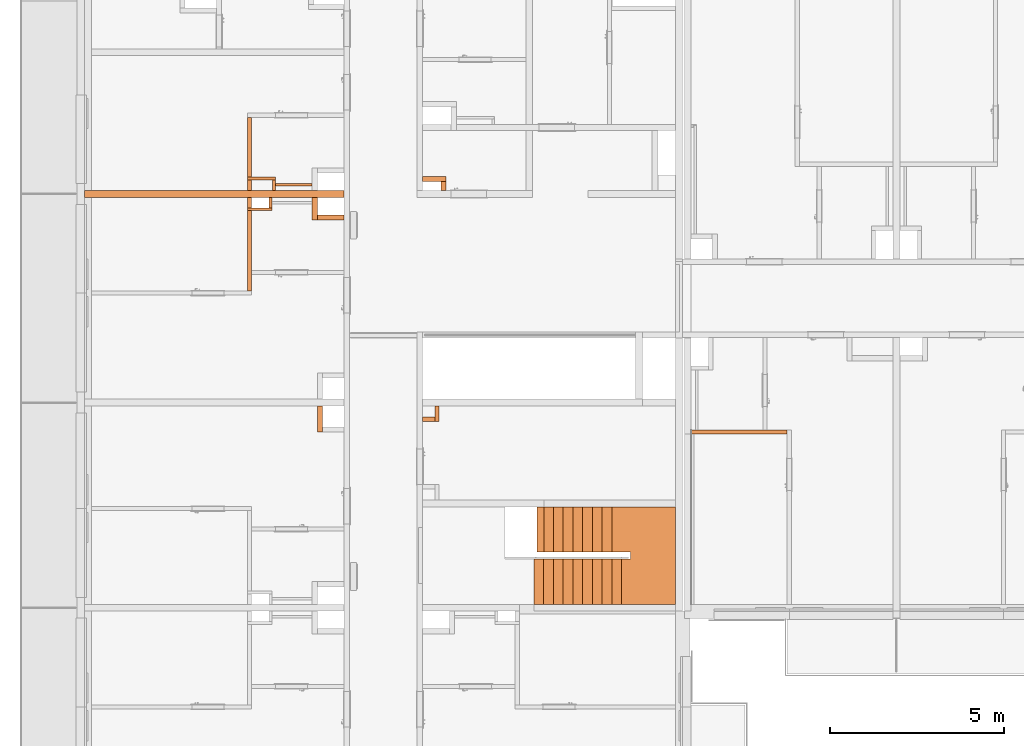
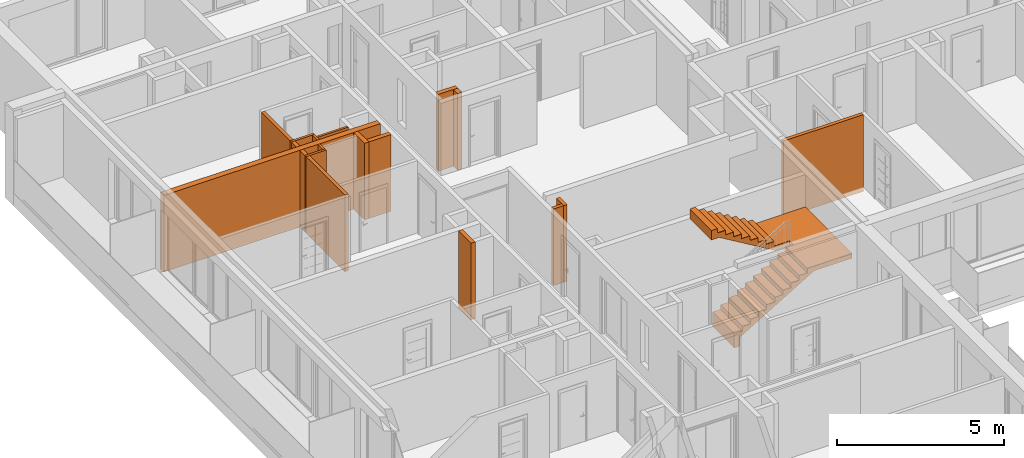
# One storey, part 55 of 67: 17 proxies.
"""IFC2X3 building model written with IfcOpenShell, lengths in millimetres."""

from ifc_helpers import new_model, entity, si_unit, converted_unit, derived_unit, money_unit, direction, frame, origin_with_axes, place, context, subcontext, project, spatial, faceted_brep, material, material_list, type_object, element, save


model = new_model("IFC2X3")

# Units and contexts
model_context = context("Model", 3, precision=0.01, world=origin_with_axes(), true_north=direction((0.34421633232, 0.938890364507)))
body_context = subcontext(model_context, "Body", "Model", "MODEL_VIEW")
ifc_project = project(units=[si_unit("LENGTHUNIT", "METRE", prefix="MILLI"), si_unit("AREAUNIT", "SQUARE_METRE"), si_unit("VOLUMEUNIT", "CUBIC_METRE"), converted_unit("PLANEANGLEUNIT", "DEGREE", entity("IfcPlaneAngleMeasure", 0.0174532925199), si_unit("PLANEANGLEUNIT", "RADIAN"), dimensions=[0, 0, 0, 0, 0, 0, 0]), si_unit("SOLIDANGLEUNIT", "STERADIAN"), money_unit("USD"), converted_unit("TIMEUNIT", "Year", entity("IfcTimeMeasure", 31556926.0), si_unit("TIMEUNIT", "SECOND"), dimensions=[0, 0, 1, 0, 0, 0, 0]), si_unit("MASSUNIT", "GRAM", prefix="KILO"), si_unit("THERMODYNAMICTEMPERATUREUNIT", "DEGREE_CELSIUS"), si_unit("LUMINOUSINTENSITYUNIT", "LUMEN"), si_unit("ENERGYUNIT", "JOULE", prefix="MEGA"), derived_unit("THERMALCONDUCTANCEUNIT", [(si_unit("POWERUNIT", "WATT"), 1), (si_unit("LENGTHUNIT", "METRE"), -1), (si_unit("THERMODYNAMICTEMPERATUREUNIT", "KELVIN"), -1)]), derived_unit("SPECIFICHEATCAPACITYUNIT", [(si_unit("ENERGYUNIT", "JOULE"), 1), (si_unit("MASSUNIT", "GRAM", prefix="KILO"), -1), (si_unit("THERMODYNAMICTEMPERATUREUNIT", "KELVIN"), -1)]), derived_unit("MASSDENSITYUNIT", [(si_unit("MASSUNIT", "GRAM", prefix="KILO"), 1), (si_unit("VOLUMEUNIT", "CUBIC_METRE"), -1)])], contexts=[model_context])

# Site, building, storey
site_placement = place(None, origin_with_axes())
site = spatial("IfcSite", under=ifc_project, at=site_placement, Name="USTRONIE MORSKIE", CompositionType="ELEMENT")
building_placement = place(site_placement, origin_with_axes())
building = spatial("IfcBuilding", under=site, at=building_placement, Name="Budynek", CompositionType="ELEMENT")
storey_placement = place(building_placement, frame((0.0, 0.0, 4000.0), z_axis=(0.0, 0.0, 1.0), x_axis=(1.0, 0.0, 0.0)))
storey = spatial("IfcBuildingStorey", under=building, at=storey_placement, Name="PIĘTRO 1", CompositionType="ELEMENT", Elevation=4000.0)

# Proxies
ifc_material_1 = material(Name="Bloczki silikatowe")
building_element_proxy_type_1 = type_object("IfcBuildingElementProxyType", Name="Bloczki silikatowe 120", PredefinedType="NOTDEFINED")
proxy_1_placement = place(storey_placement, frame((354717.920919, 738801.199036, -160.0), z_axis=(0.0, 0.0, 1.0), x_axis=(0.0, -1.0, 0.0)))
element("IfcBuildingElementProxy", 1, at=proxy_1_placement, inside=storey, type_object=building_element_proxy_type_1, material=ifc_material_1, Name="SW-04", context=body_context, shape_type="Brep", body=[
    faceted_brep([(400.01915523, 60.0, 0.0), (100.000390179, 60.0, 0.0), (100.000390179, 60.0, 2800.0), (400.01915523, 60.0, 2800.0), (400.01915523, -60.0, 0.0), (100.000390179, -60.0, 0.0), (100.000390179, -60.0, 2800.0), (400.01915523, -60.0, 2800.0)], [[[0, 1, 2, 3]], [[4, 5, 1, 0]], [[5, 6, 2, 1]], [[3, 2, 6, 7]], [[4, 0, 3, 7]], [[7, 6, 5, 4]]]),
    faceted_brep([(480.01915523, 60.0, 2800.0), (480.01915523, -60.0, 2800.0), (2790.01935038, -60.0, 2800.0), (2790.01935038, 60.0, 2800.0), (480.01915523, 60.0, 0.0), (480.01915523, -60.0, 0.0), (2790.01935038, -60.0, 0.0), (2790.01935038, 60.0, 0.0)], [[[0, 1, 2, 3]], [[1, 0, 4, 5]], [[1, 5, 6, 2]], [[7, 3, 2, 6]], [[4, 0, 3, 7]], [[5, 4, 7, 6]]]),
])
proxy_2_placement = place(storey_placement, frame((367317.920919, 731951.199132, -160.0), z_axis=(0.0, 0.0, 1.0), x_axis=(1.0, 0.0, 0.0)))
element("IfcBuildingElementProxy", 2, at=proxy_2_placement, inside=storey, type_object=building_element_proxy_type_1, material=ifc_material_1, Name="SW-04", context=body_context, shape_type="Brep", body=[
    faceted_brep([(2860.01935038, -59.9999999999, 2800.0), (2860.01935038, 59.9999999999, 2800.0), (99.9999999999, 59.9999999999, 2800.0), (99.9999999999, -59.9999999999, 2800.0), (2860.01935038, -59.9999999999, 0.0), (2860.01935038, 59.9999999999, 0.0), (99.9999999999, 59.9999999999, 0.0), (99.9999999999, -59.9999999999, 0.0)], [[[0, 1, 2, 3]], [[1, 0, 4, 5]], [[1, 5, 6, 2]], [[7, 3, 2, 6]], [[4, 0, 3, 7]], [[5, 4, 7, 6]]]),
])
proxy_3_placement = place(storey_placement, frame((354717.920919, 738801.198625, -180.0), z_axis=(0.0, 0.0, 1.0), x_axis=(0.0, 1.0, 0.0)))
element("IfcBuildingElementProxy", 3, at=proxy_3_placement, inside=storey, type_object=building_element_proxy_type_1, material=ifc_material_1, Name="SW-04", context=body_context, shape_type="Brep", body=[
    faceted_brep([(100.000020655, -60.0, 2820.0), (100.000020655, -60.0, 20.0), (400.019566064, -60.0, 20.0), (400.019566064, -60.0, 2820.0), (100.000020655, 60.0, 2820.0), (100.000020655, 60.0, 20.0), (400.019566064, 60.0, 20.0), (400.019566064, 60.0, 2820.0)], [[[0, 1, 2, 3]], [[4, 5, 1, 0]], [[6, 2, 1, 5]], [[2, 6, 7, 3]], [[4, 0, 3, 7]], [[7, 6, 5, 4]]]),
    faceted_brep([(480.019566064, -60.0, 2820.0), (480.019566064, -60.0, 20.0), (2200.01958047, -60.0, 20.0), (2200.01958047, -60.0, 2820.0), (480.019566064, 60.0, 2820.0), (480.019566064, 60.0, 20.0), (2200.01958047, 60.0, 20.0), (2200.01958047, 60.0, 2820.0)], [[[0, 1, 2, 3]], [[4, 5, 1, 0]], [[5, 6, 2, 1]], [[3, 2, 6, 7]], [[4, 0, 3, 7]], [[7, 6, 5, 4]]]),
])
proxy_4_placement = place(storey_placement, frame((360047.920919, 732381.198997, -160.0), z_axis=(0.0, 0.0, 1.0), x_axis=(-1.0, 0.0, 0.0)))
element("IfcBuildingElementProxy", 4, at=proxy_4_placement, inside=storey, type_object=building_element_proxy_type_1, material=ifc_material_1, Name="SW-04", context=body_context, shape_type="Brep", body=[
    faceted_brep([(350.0, 120.0, 0.0), (350.0, 0.0, 0.0), (0.0, 0.0, 0.0), (0.0, 120.0, 0.0), (350.0, 120.0, 2800.0), (350.0, 0.0, 2800.0), (0.0, 0.0, 2800.0), (0.0, 120.0, 2800.0)], [[[0, 1, 2, 3]], [[1, 0, 4, 5]], [[1, 5, 6, 2]], [[7, 3, 2, 6]], [[4, 0, 3, 7]], [[5, 4, 7, 6]]]),
])
proxy_5_placement = place(storey_placement, frame((360047.920919, 732801.199169, -160.0), z_axis=(0.0, 0.0, 1.0), x_axis=(0.0, -1.0, 0.0)))
element("IfcBuildingElementProxy", 5, at=proxy_5_placement, inside=storey, type_object=building_element_proxy_type_1, material=ifc_material_1, Name="SW-04", context=body_context, shape_type="Brep", body=[
    faceted_brep([(540.000171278, 120.0, 0.0), (540.000171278, 0.0, 0.0), (100.000132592, 0.0, 0.0), (100.000132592, 120.0, 0.0), (540.000171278, 120.0, 2800.0), (540.000171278, 0.0, 2800.0), (100.000132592, 0.0, 2800.0), (100.000132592, 120.0, 2800.0)], [[[0, 1, 2, 3]], [[1, 0, 4, 5]], [[1, 5, 6, 2]], [[7, 3, 2, 6]], [[4, 0, 3, 7]], [[5, 4, 7, 6]]]),
])
ifc_material_2 = material(Name="Beton konstrukcyjny B25")
ifc_material_3 = material(Name="Płytki podłogowe")
ifc_material_list_1 = material_list([ifc_material_2, ifc_material_2, ifc_material_2, ifc_material_3, ifc_material_3, ifc_material_3, ifc_material_3, ifc_material_3, ifc_material_3, ifc_material_3, ifc_material_3, ifc_material_3, ifc_material_3, ifc_material_3, ifc_material_3, ifc_material_3, ifc_material_3, ifc_material_3, ifc_material_3, ifc_material_3])
building_element_proxy_type_2 = type_object("IfcBuildingElementProxyType", Name="Typ schodów", PredefinedType="NOTDEFINED")
proxy_6_placement = place(storey_placement, frame((362896.181789, 727001.19902, 0.0), z_axis=(0.0, 0.0, 1.0), x_axis=(1.0, 0.0, 0.0)))
element("IfcBuildingElementProxy", 6, at=proxy_6_placement, inside=storey, type_object=building_element_proxy_type_2, material=ifc_material_list_1, Name="SCH2", context=body_context, shape_type="Brep", body=[
    faceted_brep([(2520.0, 1300.0, 1485.0), (2240.0, 1300.0, 1485.0), (2240.0, 0.0, 1485.0), (2520.0, 0.0, 1485.0), (2520.0, 1300.0, 1491.66666667), (2765.81150867, 1300.0, 1491.66666667), (2520.0, 1300.0, 1345.35029246), (2426.66666667, 1300.0, 1289.7947369), (2333.33333333, 1300.0, 1234.23918135), (2240.0, 1300.0, 1178.68362579), (2146.66666667, 1300.0, 1123.12807024), (2053.33333333, 1300.0, 1067.57251468), (1960.0, 1300.0, 1012.01695913), (1866.66666667, 1300.0, 956.46140357), (1773.33333333, 1300.0, 900.905848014), (1680.0, 1300.0, 845.350292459), (1586.66666667, 1300.0, 789.794736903), (1493.33333333, 1300.0, 734.239181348), (1400.0, 1300.0, 678.683625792), (1306.66666667, 1300.0, 623.128070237), (1213.33333333, 1300.0, 567.572514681), (1120.0, 1300.0, 512.016959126), (1026.66666667, 1300.0, 456.46140357), (933.333333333, 1300.0, 400.905848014), (840.0, 1300.0, 345.350292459), (746.666666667, 1300.0, 289.794736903), (653.333333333, 1300.0, 234.239181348), (560.0, 1300.0, 178.683625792), (466.666666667, 1300.0, 123.128070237), (373.333333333, 1300.0, 67.5725146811), (280.0, 1300.0, 12.0169591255), (200.0, 1300.0, -35.6020884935), (200.0, 1300.0, -360.0), (0.0, 1300.0, -360.0), (0.0, 1300.0, -154.649707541), (0.0, 1300.0, 151.666666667), (280.0, 1300.0, 151.666666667), (280.0, 1300.0, 318.333333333), (560.0, 1300.0, 318.333333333), (560.0, 1300.0, 485.0), (840.0, 1300.0, 485.0), (840.0, 1300.0, 651.666666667), (1120.0, 1300.0, 651.666666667), (1120.0, 1300.0, 818.333333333), (1400.0, 1300.0, 818.333333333), (1400.0, 1300.0, 985.0), (1680.0, 1300.0, 985.0), (1680.0, 1300.0, 1151.66666667), (1960.0, 1300.0, 1151.66666667), (1960.0, 1300.0, 1318.33333333), (2240.0, 1300.0, 1318.33333333), (2240.0, 0.0, 1318.33333333), (2520.0, 0.0, 1345.35029246), (2765.81150867, 0.0, 1491.66666667), (2520.0, 0.0, 1491.66666667), (1960.0, 0.0, 1318.33333333), (1960.0, 0.0, 1151.66666667), (1680.0, 0.0, 1151.66666667), (1680.0, 0.0, 985.0), (1400.0, 0.0, 985.0), (1400.0, 0.0, 818.333333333), (1120.0, 0.0, 818.333333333), (1120.0, 0.0, 651.666666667), (840.0, 0.0, 651.666666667), (840.0, 0.0, 485.0), (560.0, 0.0, 485.0), (560.0, 0.0, 318.333333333), (280.0, 0.0, 318.333333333), (280.0, 0.0, 151.666666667), (0.0, 0.0, 151.666666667), (0.0, 0.0, -154.649707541), (0.0, 0.0, -360.0), (200.0, 0.0, -360.0), (200.0, 0.0, -35.6020884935), (280.0, 0.0, 12.0169591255), (373.333333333, 0.0, 67.5725146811), (466.666666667, 0.0, 123.128070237), (560.0, 0.0, 178.683625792), (653.333333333, 0.0, 234.239181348), (746.666666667, 0.0, 289.794736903), (840.0, 0.0, 345.350292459), (933.333333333, 0.0, 400.905848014), (1026.66666667, 0.0, 456.46140357), (1120.0, 0.0, 512.016959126), (1213.33333333, 0.0, 567.572514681), (1306.66666667, 0.0, 623.128070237), (1400.0, 0.0, 678.683625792), (1493.33333333, 0.0, 734.239181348), (1586.66666667, 0.0, 789.794736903), (1680.0, 0.0, 845.350292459), (1773.33333333, 0.0, 900.905848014), (1866.66666667, 0.0, 956.46140357), (1960.0, 0.0, 1012.01695913), (2053.33333333, 0.0, 1067.57251468), (2146.66666667, 0.0, 1123.12807024), (2240.0, 0.0, 1178.68362579), (2333.33333333, 0.0, 1234.23918135), (2426.66666667, 0.0, 1289.7947369)], [[[0, 1, 2, 3]], [[0, 4, 5, 6, 7, 8, 9, 10, 11, 12, 13, 14, 15, 16, 17, 18, 19, 20, 21, 22, 23, 24, 25, 26, 27, 28, 29, 30, 31, 32, 33, 34, 35, 36, 37, 38, 39, 40, 41, 42, 43, 44, 45, 46, 47, 48, 49, 50, 1]], [[50, 51, 2, 1]], [[52, 53, 54, 3, 2, 51, 55, 56, 57, 58, 59, 60, 61, 62, 63, 64, 65, 66, 67, 68, 69, 70, 71, 72, 73, 74, 75, 76, 77, 78, 79, 80, 81, 82, 83, 84, 85, 86, 87, 88, 89, 90, 91, 92, 93, 94, 95, 96, 97]], [[3, 54, 4, 0]], [[54, 53, 5, 4]], [[6, 5, 53, 52, 97, 7]], [[7, 97, 96, 8]], [[8, 96, 95, 9]], [[9, 95, 94, 10]], [[10, 94, 93, 11]], [[11, 93, 92, 12]], [[12, 92, 91, 13]], [[13, 91, 90, 14]], [[14, 90, 89, 15]], [[15, 89, 88, 16]], [[16, 88, 87, 17]], [[17, 87, 86, 18]], [[18, 86, 85, 19]], [[19, 85, 84, 20]], [[20, 84, 83, 21]], [[21, 83, 82, 22]], [[22, 82, 81, 23]], [[23, 81, 80, 24]], [[24, 80, 79, 25]], [[25, 79, 78, 26]], [[26, 78, 77, 27]], [[27, 77, 76, 28]], [[28, 76, 75, 29]], [[29, 75, 74, 30]], [[30, 74, 73, 31]], [[72, 32, 31, 73]], [[72, 71, 33, 32]], [[33, 71, 70, 34]], [[69, 35, 34, 70]], [[68, 36, 35, 69]], [[36, 68, 67, 37]], [[66, 38, 37, 67]], [[38, 66, 65, 39]], [[64, 40, 39, 65]], [[40, 64, 63, 41]], [[62, 42, 41, 63]], [[42, 62, 61, 43]], [[60, 44, 43, 61]], [[44, 60, 59, 45]], [[58, 46, 45, 59]], [[46, 58, 57, 47]], [[56, 48, 47, 57]], [[48, 56, 55, 49]], [[51, 50, 49, 55]]]),
    faceted_brep([(2275.92762177, 1500.0, 1491.66666667), (2771.73913043, 1500.0, 1491.66666667), (2771.73913043, 1500.0, 1651.66666667), (2275.92762177, 1500.0, 1651.66666667), (2275.92762177, 2800.0, 1491.66666667), (4071.73913043, 2800.0, 1491.66666667), (4071.73913043, 0.0, 1491.66666667), (2520.0, 0.0, 1491.66666667), (2520.0, 1300.0, 1491.66666667), (2771.73913043, 1300.0, 1491.66666667), (2771.73913043, 1300.0, 1651.66666667), (2520.0, 1300.0, 1651.66666667), (2520.0, 0.0, 1651.66666667), (4071.73913043, 0.0, 1651.66666667), (4071.73913043, 2800.0, 1651.66666667), (2275.92762177, 2800.0, 1651.66666667)], [[[0, 1, 2, 3]], [[4, 5, 6, 7, 8, 9, 1, 0]], [[10, 2, 1, 9]], [[3, 2, 10, 11, 12, 13, 14, 15]], [[15, 4, 0, 3]], [[15, 14, 5, 4]], [[14, 13, 6, 5]], [[13, 12, 7, 6]], [[12, 11, 8, 7]], [[11, 10, 9, 8]]]),
    faceted_brep([(375.072463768, 2800.0, 2623.12807024), (375.072463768, 1500.0, 2623.12807024), (346.727621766, 1500.0, 2640.0), (346.727621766, 2800.0, 2640.0), (468.405797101, 1500.0, 2567.57251468), (468.405797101, 2800.0, 2567.57251468), (561.739130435, 1500.0, 2512.01695913), (655.072463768, 1500.0, 2456.46140357), (748.405797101, 1500.0, 2400.90584801), (841.739130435, 1500.0, 2345.35029246), (935.072463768, 1500.0, 2289.7947369), (1028.4057971, 1500.0, 2234.23918135), (1121.73913043, 1500.0, 2178.68362579), (1215.07246377, 1500.0, 2123.12807024), (1308.4057971, 1500.0, 2067.57251468), (1401.73913043, 1500.0, 2012.01695913), (1495.07246377, 1500.0, 1956.46140357), (1588.4057971, 1500.0, 1900.90584801), (1681.73913043, 1500.0, 1845.35029246), (1775.07246377, 1500.0, 1789.7947369), (1868.4057971, 1500.0, 1734.23918135), (1961.73913043, 1500.0, 1678.68362579), (2055.07246377, 1500.0, 1623.12807024), (2148.4057971, 1500.0, 1567.57251468), (2241.73913043, 1500.0, 1512.01695913), (2275.92762177, 1500.0, 1491.66666667), (2275.92762177, 1500.0, 1651.66666667), (2241.73913043, 1500.0, 1651.66666667), (2241.73913043, 1500.0, 1818.33333333), (1961.73913043, 1500.0, 1818.33333333), (1961.73913043, 1500.0, 1985.0), (1681.73913043, 1500.0, 1985.0), (1681.73913043, 1500.0, 2151.66666667), (1401.73913043, 1500.0, 2151.66666667), (1401.73913043, 1500.0, 2318.33333333), (1121.73913043, 1500.0, 2318.33333333), (1121.73913043, 1500.0, 2485.0), (841.739130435, 1500.0, 2485.0), (841.739130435, 1500.0, 2651.66666667), (561.739130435, 1500.0, 2651.66666667), (561.739130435, 1500.0, 2818.33333333), (281.739130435, 1500.0, 2818.33333333), (281.739130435, 1500.0, 2985.0), (81.7391304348, 1500.0, 2985.0), (81.7391304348, 1500.0, 2640.0), (81.7391304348, 2800.0, 2640.0), (81.7391304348, 2800.0, 2985.0), (281.739130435, 2800.0, 2985.0), (281.739130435, 2800.0, 2818.33333333), (561.739130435, 2800.0, 2818.33333333), (561.739130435, 2800.0, 2651.66666667), (841.739130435, 2800.0, 2651.66666667), (841.739130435, 2800.0, 2485.0), (1121.73913043, 2800.0, 2485.0), (1121.73913043, 2800.0, 2318.33333333), (1401.73913043, 2800.0, 2318.33333333), (1401.73913043, 2800.0, 2151.66666667), (1681.73913043, 2800.0, 2151.66666667), (1681.73913043, 2800.0, 1985.0), (1961.73913043, 2800.0, 1985.0), (1961.73913043, 2800.0, 1818.33333333), (2241.73913043, 2800.0, 1818.33333333), (2241.73913043, 2800.0, 1651.66666667), (2275.92762177, 2800.0, 1651.66666667), (2275.92762177, 2800.0, 1491.66666667), (2241.73913043, 2800.0, 1512.01695913), (2148.4057971, 2800.0, 1567.57251468), (2055.07246377, 2800.0, 1623.12807024), (1961.73913043, 2800.0, 1678.68362579), (1868.4057971, 2800.0, 1734.23918135), (1775.07246377, 2800.0, 1789.7947369), (1681.73913043, 2800.0, 1845.35029246), (1588.4057971, 2800.0, 1900.90584801), (1495.07246377, 2800.0, 1956.46140357), (1401.73913043, 2800.0, 2012.01695913), (1308.4057971, 2800.0, 2067.57251468), (1215.07246377, 2800.0, 2123.12807024), (1121.73913043, 2800.0, 2178.68362579), (1028.4057971, 2800.0, 2234.23918135), (935.072463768, 2800.0, 2289.7947369), (841.739130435, 2800.0, 2345.35029246), (748.405797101, 2800.0, 2400.90584801), (655.072463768, 2800.0, 2456.46140357), (561.739130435, 2800.0, 2512.01695913)], [[[0, 1, 2, 3]], [[4, 1, 0, 5]], [[1, 4, 6, 7, 8, 9, 10, 11, 12, 13, 14, 15, 16, 17, 18, 19, 20, 21, 22, 23, 24, 25, 26, 27, 28, 29, 30, 31, 32, 33, 34, 35, 36, 37, 38, 39, 40, 41, 42, 43, 44, 2]], [[44, 45, 3, 2]], [[45, 46, 47, 48, 49, 50, 51, 52, 53, 54, 55, 56, 57, 58, 59, 60, 61, 62, 63, 64, 65, 66, 67, 68, 69, 70, 71, 72, 73, 74, 75, 76, 77, 78, 79, 80, 81, 82, 83, 5, 0, 3]], [[6, 4, 5, 83]], [[7, 6, 83, 82]], [[8, 7, 82, 81]], [[9, 8, 81, 80]], [[10, 9, 80, 79]], [[11, 10, 79, 78]], [[12, 11, 78, 77]], [[13, 12, 77, 76]], [[14, 13, 76, 75]], [[15, 14, 75, 74]], [[16, 15, 74, 73]], [[17, 16, 73, 72]], [[18, 17, 72, 71]], [[19, 18, 71, 70]], [[20, 19, 70, 69]], [[21, 20, 69, 68]], [[22, 21, 68, 67]], [[23, 22, 67, 66]], [[66, 65, 24, 23]], [[25, 24, 65, 64]], [[63, 26, 25, 64]], [[63, 62, 27, 26]], [[28, 27, 62, 61]], [[29, 28, 61, 60]], [[60, 59, 30, 29]], [[31, 30, 59, 58]], [[58, 57, 32, 31]], [[33, 32, 57, 56]], [[56, 55, 34, 33]], [[35, 34, 55, 54]], [[54, 53, 36, 35]], [[37, 36, 53, 52]], [[52, 51, 38, 37]], [[39, 38, 51, 50]], [[50, 49, 40, 39]], [[40, 49, 48, 41]], [[47, 42, 41, 48]], [[47, 46, 43, 42]], [[45, 44, 43, 46]]]),
    faceted_brep([(0.0, 0.0, 156.666666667), (0.0, 0.0, 166.666666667), (0.0, 1300.0, 166.666666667), (0.0, 1300.0, 156.666666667), (280.0, 0.0, 156.666666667), (280.0, 0.0, 166.666666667), (280.0, 1300.0, 166.666666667), (280.0, 1300.0, 156.666666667)], [[[0, 1, 2, 3]], [[4, 5, 1, 0]], [[1, 5, 6, 2]], [[3, 2, 6, 7]], [[0, 3, 7, 4]], [[7, 6, 5, 4]]]),
    faceted_brep([(280.0, 0.0, 323.333333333), (280.0, 0.0, 333.333333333), (280.0, 1300.0, 333.333333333), (280.0, 1300.0, 323.333333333), (560.0, 0.0, 323.333333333), (560.0, 0.0, 333.333333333), (560.0, 1300.0, 333.333333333), (560.0, 1300.0, 323.333333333)], [[[0, 1, 2, 3]], [[4, 5, 1, 0]], [[1, 5, 6, 2]], [[3, 2, 6, 7]], [[0, 3, 7, 4]], [[7, 6, 5, 4]]]),
    faceted_brep([(560.0, 0.0, 490.0), (560.0, 0.0, 500.0), (560.0, 1300.0, 500.0), (560.0, 1300.0, 490.0), (840.0, 0.0, 490.0), (840.0, 0.0, 500.0), (840.0, 1300.0, 500.0), (840.0, 1300.0, 490.0)], [[[0, 1, 2, 3]], [[4, 5, 1, 0]], [[1, 5, 6, 2]], [[3, 2, 6, 7]], [[0, 3, 7, 4]], [[7, 6, 5, 4]]]),
    faceted_brep([(840.0, 0.0, 656.666666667), (840.0, 0.0, 666.666666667), (840.0, 1300.0, 666.666666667), (840.0, 1300.0, 656.666666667), (1120.0, 0.0, 656.666666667), (1120.0, 0.0, 666.666666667), (1120.0, 1300.0, 666.666666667), (1120.0, 1300.0, 656.666666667)], [[[0, 1, 2, 3]], [[4, 5, 1, 0]], [[1, 5, 6, 2]], [[3, 2, 6, 7]], [[0, 3, 7, 4]], [[7, 6, 5, 4]]]),
    faceted_brep([(1120.0, 0.0, 823.333333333), (1120.0, 0.0, 833.333333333), (1120.0, 1300.0, 833.333333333), (1120.0, 1300.0, 823.333333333), (1400.0, 0.0, 823.333333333), (1400.0, 0.0, 833.333333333), (1400.0, 1300.0, 833.333333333), (1400.0, 1300.0, 823.333333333)], [[[0, 1, 2, 3]], [[4, 5, 1, 0]], [[1, 5, 6, 2]], [[3, 2, 6, 7]], [[0, 3, 7, 4]], [[7, 6, 5, 4]]]),
    faceted_brep([(1400.0, 0.0, 990.0), (1400.0, 0.0, 1000.0), (1400.0, 1300.0, 1000.0), (1400.0, 1300.0, 990.0), (1680.0, 0.0, 990.0), (1680.0, 0.0, 1000.0), (1680.0, 1300.0, 1000.0), (1680.0, 1300.0, 990.0)], [[[0, 1, 2, 3]], [[4, 5, 1, 0]], [[1, 5, 6, 2]], [[3, 2, 6, 7]], [[0, 3, 7, 4]], [[7, 6, 5, 4]]]),
    faceted_brep([(1680.0, 0.0, 1156.66666667), (1680.0, 0.0, 1166.66666667), (1680.0, 1300.0, 1166.66666667), (1680.0, 1300.0, 1156.66666667), (1960.0, 0.0, 1156.66666667), (1960.0, 0.0, 1166.66666667), (1960.0, 1300.0, 1166.66666667), (1960.0, 1300.0, 1156.66666667)], [[[0, 1, 2, 3]], [[4, 5, 1, 0]], [[1, 5, 6, 2]], [[3, 2, 6, 7]], [[0, 3, 7, 4]], [[7, 6, 5, 4]]]),
    faceted_brep([(1960.0, 0.0, 1323.33333333), (1960.0, 0.0, 1333.33333333), (1960.0, 1300.0, 1333.33333333), (1960.0, 1300.0, 1323.33333333), (2240.0, 0.0, 1323.33333333), (2240.0, 0.0, 1333.33333333), (2240.0, 1300.0, 1333.33333333), (2240.0, 1300.0, 1323.33333333)], [[[0, 1, 2, 3]], [[4, 5, 1, 0]], [[1, 5, 6, 2]], [[3, 2, 6, 7]], [[0, 3, 7, 4]], [[7, 6, 5, 4]]]),
    faceted_brep([(2240.0, 0.0, 1490.0), (2240.0, 0.0, 1500.0), (2240.0, 1300.0, 1500.0), (2240.0, 1300.0, 1490.0), (2520.0, 0.0, 1490.0), (2520.0, 0.0, 1500.0), (2520.0, 1300.0, 1500.0), (2520.0, 1300.0, 1490.0)], [[[0, 1, 2, 3]], [[4, 5, 1, 0]], [[1, 5, 6, 2]], [[3, 2, 6, 7]], [[0, 3, 7, 4]], [[7, 6, 5, 4]]]),
    faceted_brep([(2520.0, 0.0, 1656.66666667), (2520.0, 0.0, 1666.66666667), (2520.0, 1300.0, 1666.66666667), (2520.0, 1300.0, 1656.66666667), (2521.73913043, 0.0, 1656.66666667), (2521.73913043, 0.0, 1666.66666667), (4071.73913043, 0.0, 1666.66666667), (4071.73913043, 2800.0, 1666.66666667), (2521.73913043, 2800.0, 1666.66666667), (2241.73913043, 2800.0, 1666.66666667), (2241.73913043, 1500.0, 1666.66666667), (2521.73913043, 1500.0, 1666.66666667), (2771.73913043, 1500.0, 1666.66666667), (2771.73913043, 1300.0, 1666.66666667), (2521.73913043, 1300.0, 1666.66666667), (2521.73913043, 1300.0, 1656.66666667), (2771.73913043, 1300.0, 1656.66666667), (2771.73913043, 1500.0, 1656.66666667), (2521.73913043, 1500.0, 1656.66666667), (2241.73913043, 1500.0, 1656.66666667), (2241.73913043, 2800.0, 1656.66666667), (2521.73913043, 2800.0, 1656.66666667), (4071.73913043, 2800.0, 1656.66666667), (4071.73913043, 0.0, 1656.66666667)], [[[0, 1, 2, 3]], [[4, 5, 1, 0]], [[1, 5, 6, 7, 8, 9, 10, 11, 12, 13, 14, 2]], [[3, 2, 14, 15]], [[0, 3, 15, 16, 17, 18, 19, 20, 21, 22, 23, 4]], [[23, 6, 5, 4]], [[22, 7, 6, 23]], [[21, 8, 7, 22]], [[20, 9, 8, 21]], [[19, 10, 9, 20]], [[18, 11, 10, 19]], [[17, 12, 11, 18]], [[16, 13, 12, 17]], [[15, 14, 13, 16]]]),
    faceted_brep([(2241.73913043, 2800.0, 1823.33333333), (2241.73913043, 2800.0, 1833.33333333), (2241.73913043, 1500.0, 1833.33333333), (2241.73913043, 1500.0, 1823.33333333), (1961.73913043, 2800.0, 1823.33333333), (1961.73913043, 2800.0, 1833.33333333), (1961.73913043, 1500.0, 1833.33333333), (1961.73913043, 1500.0, 1823.33333333)], [[[0, 1, 2, 3]], [[4, 5, 1, 0]], [[1, 5, 6, 2]], [[3, 2, 6, 7]], [[0, 3, 7, 4]], [[7, 6, 5, 4]]]),
    faceted_brep([(1961.73913043, 2800.0, 1990.0), (1961.73913043, 2800.0, 2000.0), (1961.73913043, 1500.0, 2000.0), (1961.73913043, 1500.0, 1990.0), (1681.73913043, 2800.0, 1990.0), (1681.73913043, 2800.0, 2000.0), (1681.73913043, 1500.0, 2000.0), (1681.73913043, 1500.0, 1990.0)], [[[0, 1, 2, 3]], [[4, 5, 1, 0]], [[1, 5, 6, 2]], [[3, 2, 6, 7]], [[0, 3, 7, 4]], [[7, 6, 5, 4]]]),
    faceted_brep([(1681.73913043, 2800.0, 2156.66666667), (1681.73913043, 2800.0, 2166.66666667), (1681.73913043, 1500.0, 2166.66666667), (1681.73913043, 1500.0, 2156.66666667), (1401.73913043, 2800.0, 2156.66666667), (1401.73913043, 2800.0, 2166.66666667), (1401.73913043, 1500.0, 2166.66666667), (1401.73913043, 1500.0, 2156.66666667)], [[[0, 1, 2, 3]], [[4, 5, 1, 0]], [[1, 5, 6, 2]], [[3, 2, 6, 7]], [[0, 3, 7, 4]], [[7, 6, 5, 4]]]),
    faceted_brep([(1401.73913043, 2800.0, 2323.33333333), (1401.73913043, 2800.0, 2333.33333333), (1401.73913043, 1500.0, 2333.33333333), (1401.73913043, 1500.0, 2323.33333333), (1121.73913043, 2800.0, 2323.33333333), (1121.73913043, 2800.0, 2333.33333333), (1121.73913043, 1500.0, 2333.33333333), (1121.73913043, 1500.0, 2323.33333333)], [[[0, 1, 2, 3]], [[4, 5, 1, 0]], [[1, 5, 6, 2]], [[3, 2, 6, 7]], [[0, 3, 7, 4]], [[7, 6, 5, 4]]]),
    faceted_brep([(1121.73913043, 2800.0, 2490.0), (1121.73913043, 2800.0, 2500.0), (1121.73913043, 1500.0, 2500.0), (1121.73913043, 1500.0, 2490.0), (841.739130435, 2800.0, 2490.0), (841.739130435, 2800.0, 2500.0), (841.739130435, 1500.0, 2500.0), (841.739130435, 1500.0, 2490.0)], [[[0, 1, 2, 3]], [[4, 5, 1, 0]], [[1, 5, 6, 2]], [[3, 2, 6, 7]], [[0, 3, 7, 4]], [[7, 6, 5, 4]]]),
    faceted_brep([(841.739130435, 2800.0, 2656.66666667), (841.739130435, 2800.0, 2666.66666667), (841.739130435, 1500.0, 2666.66666667), (841.739130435, 1500.0, 2656.66666667), (561.739130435, 2800.0, 2656.66666667), (561.739130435, 2800.0, 2666.66666667), (561.739130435, 1500.0, 2666.66666667), (561.739130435, 1500.0, 2656.66666667)], [[[0, 1, 2, 3]], [[4, 5, 1, 0]], [[1, 5, 6, 2]], [[3, 2, 6, 7]], [[0, 3, 7, 4]], [[7, 6, 5, 4]]]),
    faceted_brep([(561.739130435, 2800.0, 2823.33333333), (561.739130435, 2800.0, 2833.33333333), (561.739130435, 1500.0, 2833.33333333), (561.739130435, 1500.0, 2823.33333333), (281.739130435, 2800.0, 2823.33333333), (281.739130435, 2800.0, 2833.33333333), (281.739130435, 1500.0, 2833.33333333), (281.739130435, 1500.0, 2823.33333333)], [[[0, 1, 2, 3]], [[4, 5, 1, 0]], [[1, 5, 6, 2]], [[3, 2, 6, 7]], [[0, 3, 7, 4]], [[7, 6, 5, 4]]]),
])
ifc_material_4 = material(Name="Płyta GK")
ifc_material_5 = material(Name="-Pustka powietrzna")
ifc_material_list_2 = material_list([ifc_material_4, ifc_material_4, ifc_material_5])
building_element_proxy_type_3 = type_object("IfcBuildingElementProxyType", Name="330-SD GK 2-warstwy 75", PredefinedType="NOTDEFINED")
proxy_7_placement = place(storey_placement, frame((355417.920919, 739071.20032, -180.0), z_axis=(0.0, 0.0, 1.0), x_axis=(1.0, 0.0, 0.0)))
element("IfcBuildingElementProxy", 7, at=proxy_7_placement, inside=storey, type_object=building_element_proxy_type_3, material=ifc_material_list_2, Name="Ściana-009", context=body_context, shape_type="Brep", body=[
    faceted_brep([(1099.99909883, 12.5, 165.0), (1099.99909883, 25.0, 165.0), (1099.99909883, 25.0, 2820.0), (1099.99909883, 12.5, 2820.0), (40.0, 25.0, 165.0), (40.0, 12.5, 165.0), (40.0, 25.0, 2820.0), (40.0, 12.5, 2820.0)], [[[0, 1, 2, 3]], [[4, 1, 0, 5]], [[1, 4, 6, 2]], [[7, 3, 2, 6]], [[5, 0, 3, 7]], [[4, 5, 7, 6]]]),
    faceted_brep([(1099.99909883, 0.0, 165.0), (1099.99909883, 12.5, 165.0), (1099.99909883, 12.5, 2820.0), (1099.99909883, 0.0, 2820.0), (40.0, 12.5, 165.0), (40.0, 0.0, 165.0), (40.0, 12.5, 2820.0), (40.0, 0.0, 2820.0)], [[[0, 1, 2, 3]], [[4, 1, 0, 5]], [[1, 4, 6, 2]], [[7, 3, 2, 6]], [[5, 0, 3, 7]], [[4, 5, 7, 6]]]),
    faceted_brep([(1099.99909883, -50.0, 180.0), (1099.99909883, 0.0, 180.0), (1099.99909883, 0.0, 2820.0), (1099.99909883, -50.0, 2820.0), (40.0, 0.0, 180.0), (40.0, -50.0, 180.0), (40.0, 0.0, 2820.0), (40.0, -50.0, 2820.0)], [[[0, 1, 2, 3]], [[4, 1, 0, 5]], [[1, 4, 6, 2]], [[7, 3, 2, 6]], [[5, 0, 3, 7]], [[4, 5, 7, 6]]]),
])
building_element_proxy_type_4 = type_object("IfcBuildingElementProxyType", Name="Bloczki silikatowe 80", PredefinedType="NOTDEFINED")
proxy_8_placement = place(storey_placement, frame((355417.920919, 738801.19863, -160.0), z_axis=(0.0, 0.0, 1.0), x_axis=(0.0, 1.0, 0.0)))
element("IfcBuildingElementProxy", 8, at=proxy_8_placement, inside=storey, type_object=building_element_proxy_type_4, material=ifc_material_1, Name="Ściana-010", context=body_context, shape_type="Brep", body=[
    faceted_brep([(400.019561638, 40.0, 0.0), (400.019561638, -40.0, 0.0), (100.000001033, -40.0, 0.0), (100.000000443, 40.0, 0.0), (400.019561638, 40.0, 2800.0), (400.019561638, -40.0, 2800.0), (100.000001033, -40.0, 2800.0), (100.000000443, 40.0, 2800.0)], [[[0, 1, 2, 3]], [[1, 0, 4, 5]], [[1, 5, 6, 2]], [[7, 3, 2, 6]], [[4, 0, 3, 7]], [[5, 4, 7, 6]]]),
])
proxy_9_placement = place(storey_placement, frame((354717.920919, 739241.218191, -160.0), z_axis=(0.0, 0.0, 1.0), x_axis=(1.0, 0.0, 0.0)))
element("IfcBuildingElementProxy", 9, at=proxy_9_placement, inside=storey, type_object=building_element_proxy_type_4, material=ifc_material_1, Name="Ściana-009", context=body_context, shape_type="Brep", body=[
    faceted_brep([(740.0, 40.0, 0.0), (740.0, -40.0, 0.0), (-60.0, -40.0, 0.0), (-60.0, 40.0, 0.0), (740.0, 40.0, 2800.0), (740.0, -40.0, 2800.0), (-60.0, -40.0, 2800.0), (-60.0, 40.0, 2800.0)], [[[0, 1, 2, 3]], [[1, 0, 4, 5]], [[1, 5, 6, 2]], [[7, 3, 2, 6]], [[4, 0, 3, 7]], [[5, 4, 7, 6]]]),
])
proxy_10_placement = place(storey_placement, frame((355317.920919, 738801.19863, -160.0), z_axis=(0.0, 0.0, 1.0), x_axis=(0.0, -1.0, 0.0)))
element("IfcBuildingElementProxy", 10, at=proxy_10_placement, inside=storey, type_object=building_element_proxy_type_4, material=ifc_material_1, Name="Ściana-010", context=body_context, shape_type="Brep", body=[
    faceted_brep([(400.018748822, -40.0, 2800.0), (400.018748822, 40.0, 2800.0), (99.9999997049, 40.0, 2800.0), (100.000000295, -40.0, 2800.0), (400.018748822, -40.0, 0.0), (400.018748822, 40.0, 0.0), (99.9999997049, 40.0, 0.0), (100.000000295, -40.0, 0.0)], [[[0, 1, 2, 3]], [[1, 0, 4, 5]], [[1, 5, 6, 2]], [[7, 3, 2, 6]], [[4, 0, 3, 7]], [[5, 4, 7, 6]]]),
])
proxy_11_placement = place(storey_placement, frame((354717.920919, 738361.179881, -160.0), z_axis=(0.0, 0.0, 1.0), x_axis=(1.0, 0.0, 0.0)))
element("IfcBuildingElementProxy", 11, at=proxy_11_placement, inside=storey, type_object=building_element_proxy_type_4, material=ifc_material_1, Name="Ściana-009", context=body_context, shape_type="Brep", body=[
    faceted_brep([(640.0, -40.0, 2800.0), (640.0, 40.0, 2800.0), (-60.0, 40.0, 2800.0), (-60.0, -40.0, 2800.0), (640.0, -40.0, 0.0), (640.0, 40.0, 0.0), (-60.0, 40.0, 0.0), (-60.0, -40.0, 0.0)], [[[0, 1, 2, 3]], [[1, 0, 4, 5]], [[1, 5, 6, 2]], [[7, 3, 2, 6]], [[4, 0, 3, 7]], [[5, 4, 7, 6]]]),
])
building_element_proxy_type_5 = type_object("IfcBuildingElementProxyType", Name="Bloczki silikatowe 150", PredefinedType="NOTDEFINED")
proxy_12_placement = place(storey_placement, frame((356592.920018, 738126.197761, -160.0), z_axis=(0.0, 0.0, 1.0), x_axis=(1.0, 0.0, 0.0)))
element("IfcBuildingElementProxy", 12, at=proxy_12_placement, inside=storey, type_object=building_element_proxy_type_5, material=ifc_material_1, Name="SW-03", context=body_context, shape_type="Brep", body=[
    faceted_brep([(845.00090117, -75.0, 2800.0), (845.00090117, 75.0, 2800.0), (75.0, 75.0, 2800.0), (75.0, -75.0, 2800.0), (845.00090117, -75.0, 0.0), (845.00090117, 75.0, 0.0), (75.0, 75.0, 0.0), (75.0, -75.0, 0.0)], [[[0, 1, 2, 3]], [[1, 0, 4, 5]], [[1, 5, 6, 2]], [[7, 3, 2, 6]], [[4, 0, 3, 7]], [[5, 4, 7, 6]]]),
])
proxy_13_placement = place(storey_placement, frame((356592.920018, 738801.198641, -160.0), z_axis=(0.0, 0.0, 1.0), x_axis=(0.0, -1.0, 0.0)))
element("IfcBuildingElementProxy", 13, at=proxy_13_placement, inside=storey, type_object=building_element_proxy_type_5, material=ifc_material_1, Name="SW-03", context=body_context, shape_type="Brep", body=[
    faceted_brep([(750.000879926, -75.0, 2800.0), (750.000879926, 75.0, 2800.0), (100.000001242, 75.0, 2800.0), (100.000002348, -75.0, 2800.0), (750.000879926, -75.0, 0.0), (750.000879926, 75.0, 0.0), (100.000001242, 75.0, 0.0), (100.000002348, -75.0, 0.0)], [[[0, 1, 2, 3]], [[1, 0, 4, 5]], [[1, 5, 6, 2]], [[7, 3, 2, 6]], [[4, 0, 3, 7]], [[5, 4, 7, 6]]]),
])
proxy_14_placement = place(storey_placement, frame((356817.920919, 732801.199074, -160.0), z_axis=(0.0, 0.0, 1.0), x_axis=(0.0, -1.0, 0.0)))
element("IfcBuildingElementProxy", 14, at=proxy_14_placement, inside=storey, type_object=building_element_proxy_type_5, material=ifc_material_1, Name="SW-03", context=body_context, shape_type="Brep", body=[
    faceted_brep([(850.000037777, 0.0, 0.0), (100.000037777, 0.0, 0.0), (100.000037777, 0.0, 2800.0), (850.000037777, 0.0, 2800.0), (850.000037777, -150.0, 0.0), (100.000037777, -150.0, 0.0), (100.000037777, -150.0, 2800.0), (850.000037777, -150.0, 2800.0)], [[[0, 1, 2, 3]], [[4, 5, 1, 0]], [[5, 6, 2, 1]], [[3, 2, 6, 7]], [[4, 0, 3, 7]], [[7, 6, 5, 4]]]),
])
proxy_15_placement = place(storey_placement, frame((360292.922714, 738801.199036, -160.0), z_axis=(0.0, 0.0, 1.0), x_axis=(0.0, 1.0, 0.0)))
element("IfcBuildingElementProxy", 15, at=proxy_15_placement, inside=storey, type_object=building_element_proxy_type_5, material=ifc_material_1, Name="SW-04", context=body_context, shape_type="Brep", body=[
    faceted_brep([(350.0, -75.0, 2800.0), (350.0, 75.0, 2800.0), (100.0, 75.0, 2800.0), (100.0, -75.0, 2800.0), (350.0, -75.0, 0.0), (350.0, 75.0, 0.0), (100.0, 75.0, 0.0), (100.0, -75.0, 0.0)], [[[0, 1, 2, 3]], [[1, 0, 4, 5]], [[1, 5, 6, 2]], [[7, 3, 2, 6]], [[4, 0, 3, 7]], [[5, 4, 7, 6]]]),
])
proxy_16_placement = place(storey_placement, frame((360292.922714, 739226.199036, -160.0), z_axis=(0.0, 0.0, 1.0), x_axis=(-1.0, 0.0, 0.0)))
element("IfcBuildingElementProxy", 16, at=proxy_16_placement, inside=storey, type_object=building_element_proxy_type_5, material=ifc_material_1, Name="SW-04", context=body_context, shape_type="Brep", body=[
    faceted_brep([(595.001794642, -75.0, 2800.0), (595.001794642, 75.0, 2800.0), (-75.0, 75.0, 2800.0), (-75.0, -75.0, 2800.0), (595.001794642, -75.0, 0.0), (595.001794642, 75.0, 0.0), (-75.0, 75.0, 0.0), (-75.0, -75.0, 0.0)], [[[0, 1, 2, 3]], [[1, 0, 4, 5]], [[1, 5, 6, 2]], [[7, 3, 2, 6]], [[4, 0, 3, 7]], [[5, 4, 7, 6]]]),
])
building_element_proxy_type_6 = type_object("IfcBuildingElementProxyType", Name="Beton konstrukcyjny B25 200", PredefinedType="NOTDEFINED")
proxy_17_placement = place(storey_placement, frame((357517.920919, 738801.198646, -160.0), z_axis=(0.0, 0.0, 1.0), x_axis=(-1.0, -7.37678029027e-09, 0.0)))
element("IfcBuildingElementProxy", 17, at=proxy_17_placement, inside=storey, type_object=building_element_proxy_type_6, material=ifc_material_2, Name="SW-01", context=body_context, shape_type="Brep", body=[
    faceted_brep([(80.0000007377, 99.9999994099, 0.0), (7550.00000074, 99.9999443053, 0.0), (7549.99999926, -100.000055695, 0.0), (79.9999992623, -100.00000059, 0.0), (80.0000007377, 99.9999994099, 2800.0), (7550.00000074, 99.9999443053, 2800.0), (7549.99999926, -100.000055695, 2800.0), (79.9999992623, -100.00000059, 2800.0)], [[[0, 1, 2, 3]], [[4, 5, 1, 0]], [[6, 2, 1, 5]], [[3, 2, 6, 7]], [[7, 4, 0, 3]], [[7, 6, 5, 4]]]),
])

save(model, "model.ifc")
